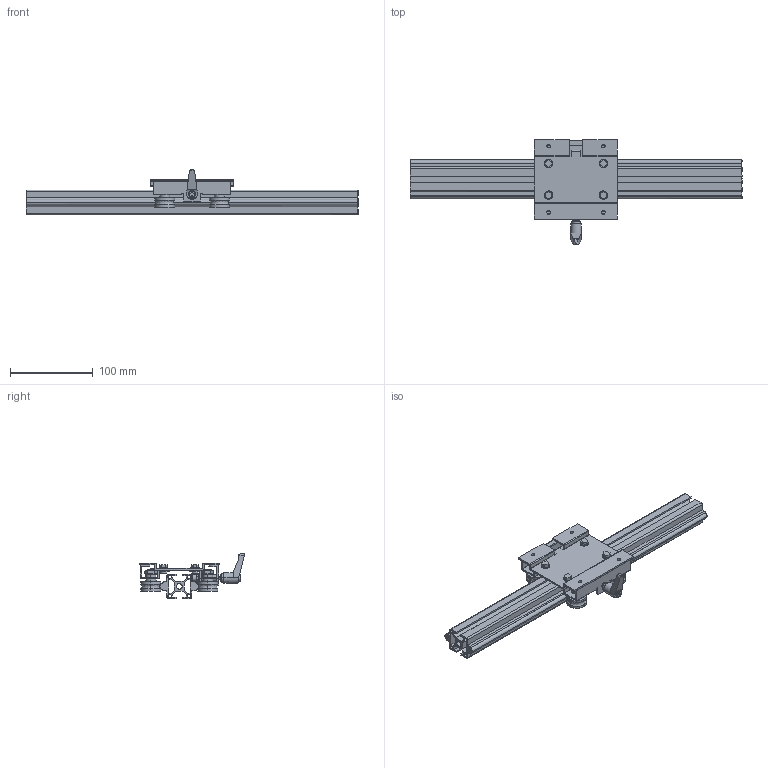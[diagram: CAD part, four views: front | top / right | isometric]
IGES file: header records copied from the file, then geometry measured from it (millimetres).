
Global section: file name: No Iges File Name specified; native system: AutoDesk Inventor R11.0; preprocessor: AutoDesk Inventor Iges Exporter R11.0; author: No Author specified; organization: No Organization specified; date: 20180803.161202; units: millimetre
Bounding box: 400 x 126.5 x 55.2 mm (x, y, z)
Surface area: 198997.7 mm2 (no closed solid volume)
Topology: 0 solids, 0 shells, 512 faces, 3168 edges, 3167 vertices
Faces by surface type: bspline 512
